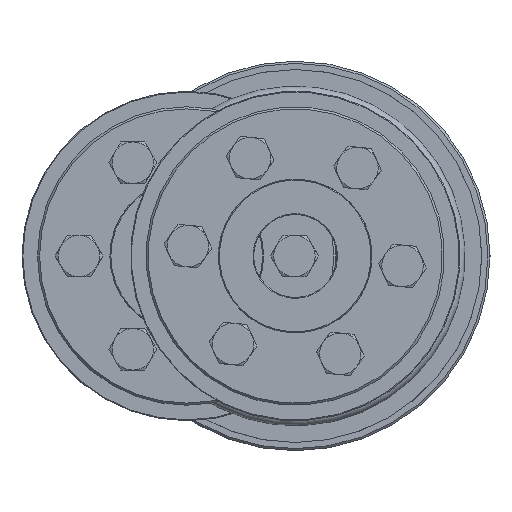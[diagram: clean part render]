
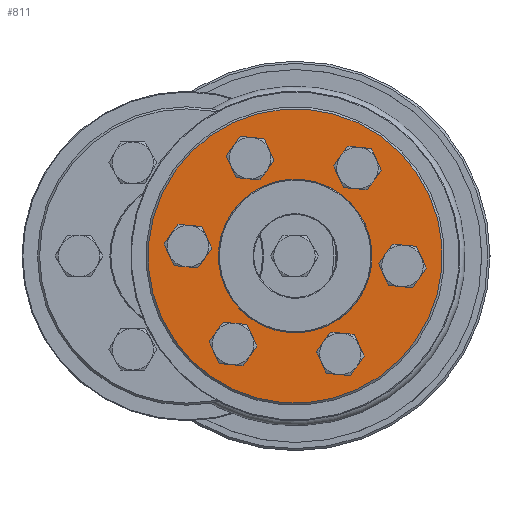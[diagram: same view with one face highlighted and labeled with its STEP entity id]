
A CAD part, left-side view. The second image highlights one B-rep face of the part: STEP entity #811.
In plain terms, the highlighted planar face has unit normal (-1, 0, 0).
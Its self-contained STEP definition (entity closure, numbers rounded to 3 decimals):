
#811 = ADVANCED_FACE( 'NONE', ( #1409, #1410, #1411, #1412, #1413, #1414, #1415, #1416 ), #1417, .F. );
#1409 = FACE_OUTER_BOUND( '', #2084, .T. );
#1410 = FACE_BOUND( '', #2085, .T. );
#1411 = FACE_BOUND( '', #2086, .T. );
#1412 = FACE_BOUND( '', #2087, .T. );
#1413 = FACE_BOUND( '', #2088, .T. );
#1414 = FACE_BOUND( '', #2089, .T. );
#1415 = FACE_BOUND( '', #2090, .T. );
#1416 = FACE_BOUND( '', #2091, .T. );
#1417 = PLANE( '', #2092 );
#2084 = EDGE_LOOP( '', ( #2946 ) );
#2085 = EDGE_LOOP( '', ( #2947 ) );
#2086 = EDGE_LOOP( '', ( #2948 ) );
#2087 = EDGE_LOOP( '', ( #2949 ) );
#2088 = EDGE_LOOP( '', ( #2950 ) );
#2089 = EDGE_LOOP( '', ( #2951 ) );
#2090 = EDGE_LOOP( '', ( #2952 ) );
#2091 = EDGE_LOOP( '', ( #2953 ) );
#2092 = AXIS2_PLACEMENT_3D( '', #2954, #2955, #2956 );
#2946 = ORIENTED_EDGE( '', *, *, #4049, .T. );
#2947 = ORIENTED_EDGE( '', *, *, #4050, .T. );
#2948 = ORIENTED_EDGE( '', *, *, #4051, .T. );
#2949 = ORIENTED_EDGE( '', *, *, #4052, .T. );
#2950 = ORIENTED_EDGE( '', *, *, #4045, .T. );
#2951 = ORIENTED_EDGE( '', *, *, #4043, .T. );
#2952 = ORIENTED_EDGE( '', *, *, #4053, .T. );
#2953 = ORIENTED_EDGE( '', *, *, #4048, .F. );
#2954 = CARTESIAN_POINT( '', ( 0., 18.5, 0. ) );
#2955 = DIRECTION( '', ( 1., 0., 0. ) );
#2956 = DIRECTION( '', ( 0., 1., 0. ) );
#4043 = EDGE_CURVE( 'NONE', #4495, #4495, #4496, .T. );
#4045 = EDGE_CURVE( 'NONE', #4499, #4499, #4500, .T. );
#4048 = EDGE_CURVE( 'NONE', #4505, #4505, #4506, .T. );
#4049 = EDGE_CURVE( 'NONE', #4507, #4507, #4508, .T. );
#4050 = EDGE_CURVE( 'NONE', #4509, #4509, #4510, .T. );
#4051 = EDGE_CURVE( 'NONE', #4511, #4511, #4512, .T. );
#4052 = EDGE_CURVE( 'NONE', #4513, #4513, #4514, .T. );
#4053 = EDGE_CURVE( 'NONE', #4515, #4515, #4516, .T. );
#4495 = VERTEX_POINT( '', #4975 );
#4496 = CIRCLE( '', #4976, 3.3 );
#4499 = VERTEX_POINT( '', #4979 );
#4500 = CIRCLE( '', #4980, 3.3 );
#4505 = VERTEX_POINT( '', #4985 );
#4506 = CIRCLE( '', #4986, 18.5 );
#4507 = VERTEX_POINT( '', #4987 );
#4508 = CIRCLE( '', #4988, 35.5 );
#4509 = VERTEX_POINT( '', #4989 );
#4510 = CIRCLE( '', #4990, 3.3 );
#4511 = VERTEX_POINT( '', #4991 );
#4512 = CIRCLE( '', #4992, 3.3 );
#4513 = VERTEX_POINT( '', #4993 );
#4514 = CIRCLE( '', #4994, 3.3 );
#4515 = VERTEX_POINT( '', #4995 );
#4516 = CIRCLE( '', #4996, 3.3 );
#4975 = CARTESIAN_POINT( '', ( 0., 13., -25.817 ) );
#4976 = AXIS2_PLACEMENT_3D( '', #5806, #5807, #5808 );
#4979 = CARTESIAN_POINT( '', ( 0., -13., -25.817 ) );
#4980 = AXIS2_PLACEMENT_3D( '', #5812, #5813, #5814 );
#4985 = CARTESIAN_POINT( '', ( 0., 0., 18.5 ) );
#4986 = AXIS2_PLACEMENT_3D( '', #5821, #5822, #5823 );
#4987 = CARTESIAN_POINT( '', ( 0., 0., -35.5 ) );
#4988 = AXIS2_PLACEMENT_3D( '', #5824, #5825, #5826 );
#4989 = CARTESIAN_POINT( '', ( 0., 13., 19.217 ) );
#4990 = AXIS2_PLACEMENT_3D( '', #5827, #5828, #5829 );
#4991 = CARTESIAN_POINT( '', ( 0., -13., 19.217 ) );
#4992 = AXIS2_PLACEMENT_3D( '', #5830, #5831, #5832 );
#4993 = CARTESIAN_POINT( '', ( 0., -26., -3.3 ) );
#4994 = AXIS2_PLACEMENT_3D( '', #5833, #5834, #5835 );
#4995 = CARTESIAN_POINT( '', ( 0., 26., -3.3 ) );
#4996 = AXIS2_PLACEMENT_3D( '', #5836, #5837, #5838 );
#5806 = CARTESIAN_POINT( '', ( 0., 13., -22.517 ) );
#5807 = DIRECTION( '', ( 1., 0., 0. ) );
#5808 = DIRECTION( '', ( 0., 0., -1. ) );
#5812 = CARTESIAN_POINT( '', ( 0., -13., -22.517 ) );
#5813 = DIRECTION( '', ( 1., 0., 0. ) );
#5814 = DIRECTION( '', ( 0., 0., -1. ) );
#5821 = CARTESIAN_POINT( '', ( 0., 0., 0. ) );
#5822 = DIRECTION( '', ( -1., 0., 0. ) );
#5823 = DIRECTION( '', ( 0., 0., 1. ) );
#5824 = CARTESIAN_POINT( '', ( 0., 0., 0. ) );
#5825 = DIRECTION( '', ( -1., 0., 0. ) );
#5826 = DIRECTION( '', ( 0., 0., -1. ) );
#5827 = CARTESIAN_POINT( '', ( 0., 13., 22.517 ) );
#5828 = DIRECTION( '', ( 1., 0., 0. ) );
#5829 = DIRECTION( '', ( 0., 0., -1. ) );
#5830 = CARTESIAN_POINT( '', ( 0., -13., 22.517 ) );
#5831 = DIRECTION( '', ( 1., 0., 0. ) );
#5832 = DIRECTION( '', ( 0., 0., -1. ) );
#5833 = CARTESIAN_POINT( '', ( 0., -26., 0. ) );
#5834 = DIRECTION( '', ( 1., 0., 0. ) );
#5835 = DIRECTION( '', ( 0., 0., -1. ) );
#5836 = CARTESIAN_POINT( '', ( 0., 26., 0. ) );
#5837 = DIRECTION( '', ( 1., 0., 0. ) );
#5838 = DIRECTION( '', ( 0., 0., -1. ) );
